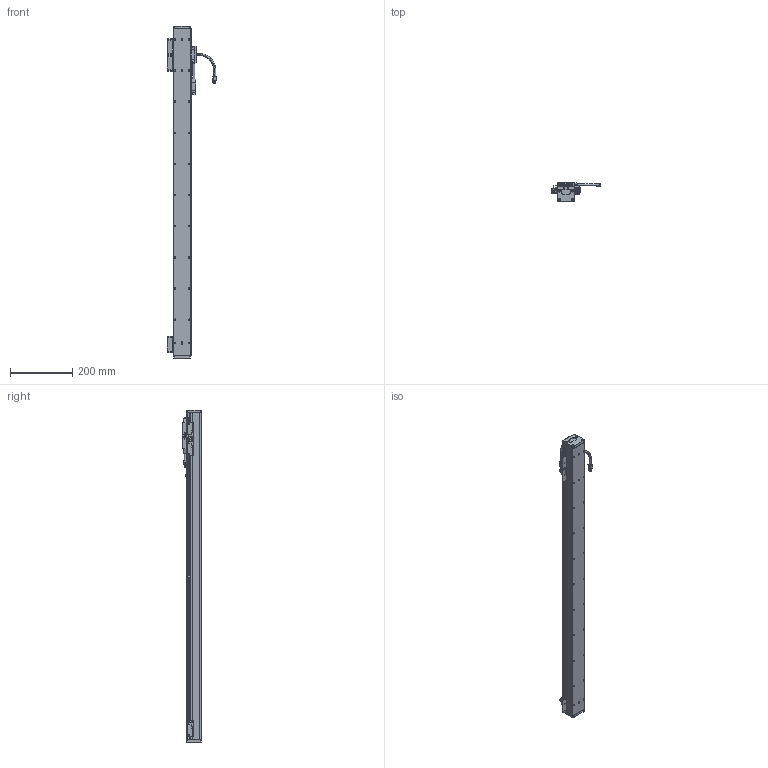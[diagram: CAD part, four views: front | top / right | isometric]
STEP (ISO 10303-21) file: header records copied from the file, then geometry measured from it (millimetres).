
FILE_DESCRIPTION(('Open CASCADE Model'),'2;1');
FILE_NAME('Open CASCADE Shape Model','2025-11-07T00:52:44',('Author'),( 'Open CASCADE'),'Open CASCADE STEP processor 7.6','Open CASCADE 7.6' ,'Unknown');
FILE_SCHEMA(('AUTOMOTIVE_DESIGN { 1 0 10303 214 1 1 1 1 }'));
Length unit declared in the file: millimetre
Products named in the file (25): Open CASCADE STEP translator 7.6 109; Open CASCADE STEP translator 7.6 109.1; Open CASCADE STEP translator 7.6 109.2; Open CASCADE STEP translator 7.6 109.3; Open CASCADE STEP translator 7.6 109.4; Open CASCADE STEP translator 7.6 109.5; Open CASCADE STEP translator 7.6 109.6; Open CASCADE STEP translator 7.6 109.7; Open CASCADE STEP translator 7.6 109.8; Open CASCADE STEP translator 7.6 109.9; Open CASCADE STEP translator 7.6 109.10; Open CASCADE STEP translator 7.6 109.11; Open CASCADE STEP translator 7.6 109.12; Open CASCADE STEP translator 7.6 109.13; Open CASCADE STEP translator 7.6 109.14; Open CASCADE STEP translator 7.6 109.14.1; Open CASCADE STEP translator 7.6 109.14.1.1; Open CASCADE STEP translator 7.6 109.14.1.2; Open CASCADE STEP translator 7.6 109.14.1.3; Open CASCADE STEP translator 7.6 109.14.1.4; Open CASCADE STEP translator 7.6 109.14.1.5; Open CASCADE STEP translator 7.6 109.15; Open CASCADE STEP translator 7.6 109.16; Open CASCADE STEP translator 7.6 109.17; Open CASCADE STEP translator 7.6 109.18
Assembly tree (24 placements, depth 4):
  Open CASCADE STEP translator 7.6 109
    Open CASCADE STEP translator 7.6 109.1
    Open CASCADE STEP translator 7.6 109.2
    Open CASCADE STEP translator 7.6 109.3
    Open CASCADE STEP translator 7.6 109.4
    Open CASCADE STEP translator 7.6 109.5
    Open CASCADE STEP translator 7.6 109.6
    Open CASCADE STEP translator 7.6 109.7
    Open CASCADE STEP translator 7.6 109.8
    Open CASCADE STEP translator 7.6 109.9
    Open CASCADE STEP translator 7.6 109.10
    Open CASCADE STEP translator 7.6 109.11
    Open CASCADE STEP translator 7.6 109.12
    Open CASCADE STEP translator 7.6 109.13
    Open CASCADE STEP translator 7.6 109.14
      Open CASCADE STEP translator 7.6 109.14.1
        Open CASCADE STEP translator 7.6 109.14.1.1
        Open CASCADE STEP translator 7.6 109.14.1.2
        Open CASCADE STEP translator 7.6 109.14.1.3
        Open CASCADE STEP translator 7.6 109.14.1.4
        Open CASCADE STEP translator 7.6 109.14.1.5
    Open CASCADE STEP translator 7.6 109.15
    Open CASCADE STEP translator 7.6 109.16
    Open CASCADE STEP translator 7.6 109.17
    Open CASCADE STEP translator 7.6 109.18
Bounding box: 158 x 60 x 1066 mm (x, y, z)
Volume: 2863215.8 mm3; surface area: 358316.3 mm2
Topology: 22 solids, 23 shells, 1919 faces, 4785 edges, 3032 vertices
Faces by surface type: plane 987, cylinder 720, bspline 112, cone 84, torus 16
Entity records: 146310 total; most frequent: CARTESIAN_POINT 52229, DIRECTION 17246, LINE 10527, VECTOR 10527, ORIENTED_EDGE 9436, PCURVE 9436, DEFINITIONAL_REPRESENTATION 9436, EDGE_CURVE 4718
